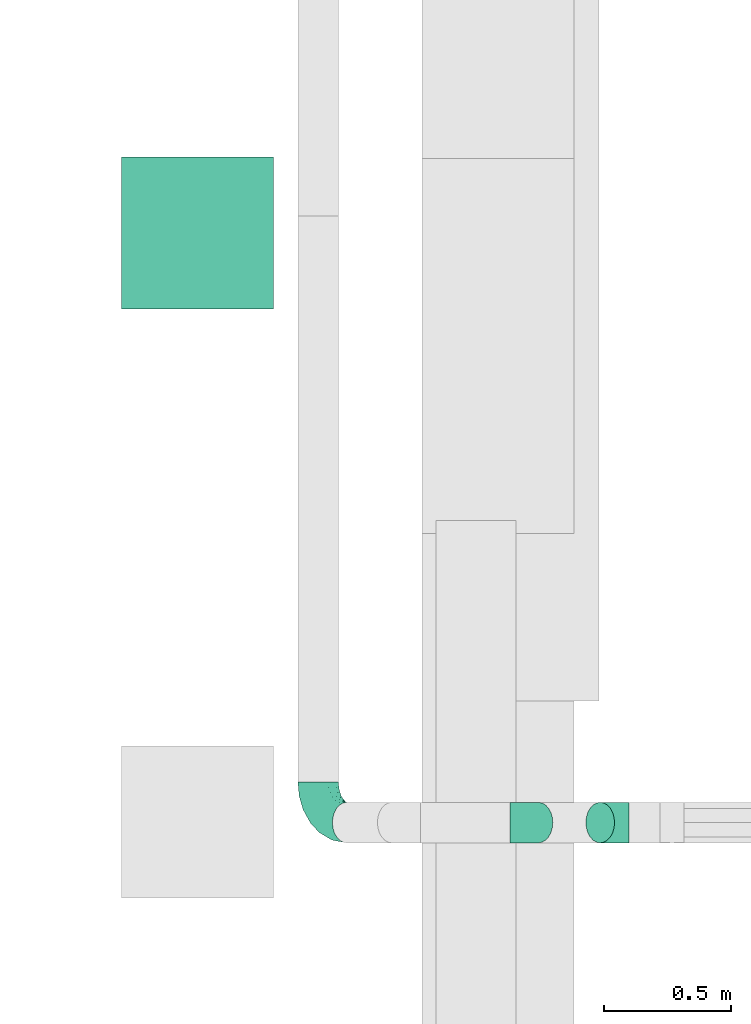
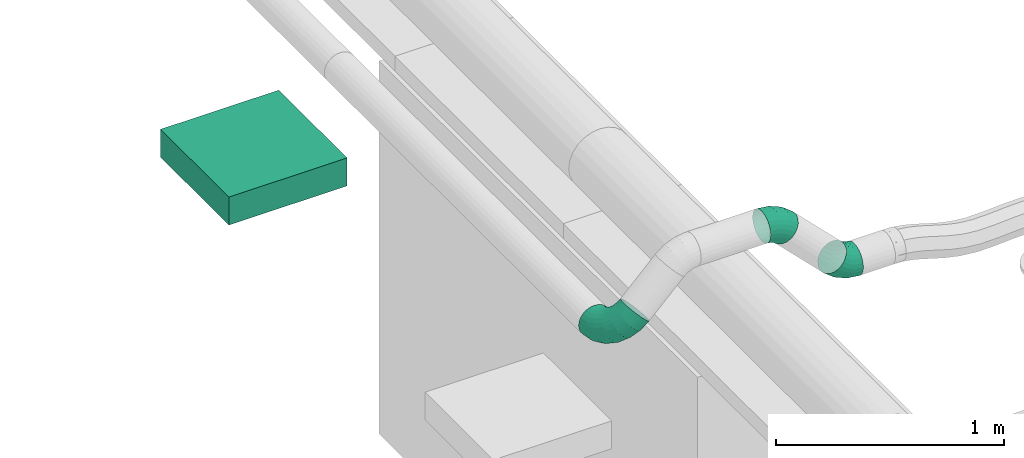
# One storey, part 24 of 119: 3 flow fittings, 1 distribution element.
"""IFC2X3 building model written with IfcOpenShell, lengths in metres."""

from ifc_helpers import new_model, si_unit, direction, frame, frame_2d, origin, place, context, subcontext, project, spatial, rectangle, extrude, open_shell, surface_model, source, transform, mapped, element, save


model = new_model("IFC2X3")

# Units and contexts
model_context = context("Model", 3, precision=1e-05, world=origin(), true_north=direction((-0.4480736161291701, 0.8939966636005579)))
body_context = subcontext(model_context, "Body", "Model", "MODEL_VIEW")
ifc_project = project(units=[si_unit("LENGTHUNIT", "METRE"), si_unit("AREAUNIT", "SQUARE_METRE"), si_unit("VOLUMEUNIT", "CUBIC_METRE"), si_unit("PLANEANGLEUNIT", "RADIAN"), si_unit("THERMODYNAMICTEMPERATUREUNIT", "KELVIN"), si_unit("MASSUNIT", "GRAM", prefix="KILO"), si_unit("TIMEUNIT", "SECOND")], contexts=[model_context])

# Site, building, storey
site_placement = place(None, origin())
site = spatial("IfcSite", under=ifc_project, at=site_placement, Name="Site 1", CompositionType="ELEMENT")
building_placement = place(site_placement, origin())
building = spatial("IfcBuilding", under=site, at=building_placement, Name="Undefined", CompositionType="ELEMENT")
storey_placement = place(building_placement, frame((0.0, 0.0, 5.4)))
storey = spatial("IfcBuildingStorey", under=building, at=storey_placement, Name="R+1", CompositionType="ELEMENT", Elevation=5.4)

# Flow fittings
shared_shape_1 = source(origin(), body_context, "Body", "SurfaceModel", [
    surface_model("IfcFaceBasedSurfaceModel", [(0.06265257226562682, -8.8817842e-16, 0.0), (0.062296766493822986, 0.02088115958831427, -7.105427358e-15), (0.0003558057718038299, 0.020881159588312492, 7.105427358e-15), (0.0, 0.0, 0.0), (-0.059474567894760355, 0.022956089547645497, -0.015896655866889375), (-0.06051773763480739, 0.002098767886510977, -0.01607928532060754), (-0.11311701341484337, 0.02696454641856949, -0.04660663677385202), (-0.11477645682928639, 0.006153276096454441, -0.04714207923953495), (-0.15691588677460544, 0.0326333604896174, -0.09003710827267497), (-0.15907851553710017, 0.01188721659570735, -0.09107150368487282), (-0.18788636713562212, 0.03957621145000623, -0.14322835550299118), (-0.1904048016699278, 0.01890983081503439, -0.14487384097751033), (-0.2039178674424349, 0.04731995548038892, -0.20255548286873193), (-0.20662048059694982, 0.026742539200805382, -0.20488255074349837), (0.061253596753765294, 0.04103889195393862, -0.0053597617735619), (0.0013989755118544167, 0.04103889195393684, -0.005359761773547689), (-0.05641614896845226, 0.04304393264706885, -0.02072097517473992), (-0.10825177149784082, 0.04691737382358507, -0.050396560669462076), (-0.15057538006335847, 0.05239524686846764, -0.09236417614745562), (-0.18050269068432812, 0.05910424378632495, -0.14376379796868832), (-0.19599420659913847, 0.06658715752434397, -0.20109262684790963), (0.05959415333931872, 0.05909948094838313, -0.01571402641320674), (0.003058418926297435, 0.05909948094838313, -0.01571402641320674), (-0.05155090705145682, 0.06099334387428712, -0.030223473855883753), (-0.10051228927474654, 0.06465200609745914, -0.058253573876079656), (-0.1404890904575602, 0.0698261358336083, -0.09789412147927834), (-0.16875695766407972, 0.0761631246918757, -0.14644367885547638), (-0.18338948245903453, 0.08323111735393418, -0.2005936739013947), (0.057431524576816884, 0.07383212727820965, -0.030357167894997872), (0.005221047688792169, 0.07383212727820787, -0.03035716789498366), (-0.0452104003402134, 0.07558110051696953, -0.04375657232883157), (-0.09042599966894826, 0.07895985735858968, -0.06964223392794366), (-0.12734438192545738, 0.08373814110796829, -0.10625008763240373), (-0.15344962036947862, 0.08959031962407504, -0.15108536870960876), (-0.16696268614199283, 0.0961175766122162, -0.20109262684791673), (0.054913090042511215, 0.0842328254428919, -0.048291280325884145), (0.007739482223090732, 0.08423282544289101, -0.04829128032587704), (-0.037826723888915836, 0.08581307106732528, -0.06039801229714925), (-0.07868026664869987, 0.08886587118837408, -0.08378642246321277), (-0.11203704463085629, 0.09318318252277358, -0.11686262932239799), (-0.13562384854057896, 0.09847078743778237, -0.1573725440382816), (-0.14783327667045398, 0.10436834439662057, -0.20255548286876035), (0.05221047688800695, 0.0895927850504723, -0.06829418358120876), (0.010442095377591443, 0.08959278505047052, -0.06829418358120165), (-0.029903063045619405, 0.09099196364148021, -0.07901370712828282), (-0.06607554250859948, 0.09369496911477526, -0.0997222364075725), (-0.0956102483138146, 0.0975175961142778, -0.12900851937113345), (-0.11649443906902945, 0.10219933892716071, -0.16487674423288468), (-0.12730489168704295, 0.1074211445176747, -0.2048825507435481), (0.04950786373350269, 0.08954673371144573, -0.08900271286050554), (0.013144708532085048, 0.08954673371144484, -0.08900271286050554), (-0.02197940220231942, 0.09076484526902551, -0.09833502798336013), (-0.05347081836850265, 0.09311805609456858, -0.11636367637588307), (-0.0791834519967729, 0.09644599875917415, -0.14186003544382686), (-0.09736502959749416, 0.10052187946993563, -0.17308657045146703), (-0.10677650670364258, 0.1050679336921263, -0.20791524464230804), (0.04698942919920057, 0.08409780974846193, -0.10900561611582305), (0.015663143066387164, 0.08409780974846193, -0.10900561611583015), (-0.014595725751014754, 0.08514719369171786, -0.11704525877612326), (-0.0417250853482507, 0.0871744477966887, -0.13257665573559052), (-0.06387611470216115, 0.09004141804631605, -0.15454136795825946), (-0.07953925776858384, 0.09355272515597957, -0.1814425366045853), (-0.08764709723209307, 0.09746907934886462, -0.21144689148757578), (0.04482680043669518, 0.0736173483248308, -0.12693972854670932), (0.017825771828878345, 0.0736173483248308, -0.12693972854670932), (-0.008255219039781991, 0.07452184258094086, -0.13386932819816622), (-0.03163879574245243, 0.0762691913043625, -0.14725628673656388), (-0.050731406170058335, 0.07874031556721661, -0.1661883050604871), (-0.06423192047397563, 0.08176681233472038, -0.18937519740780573), (-0.07122030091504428, 0.08514243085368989, -0.21523681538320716), (0.04316735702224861, 0.058819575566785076, -0.14158287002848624), (0.019485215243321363, 0.058819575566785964, -0.14158287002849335), (-0.0033899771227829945, 0.05961289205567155, -0.14766070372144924), (-0.02389931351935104, 0.06114546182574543, -0.15940217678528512), (-0.04064511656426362, 0.06331284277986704, -0.17600712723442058), (-0.052486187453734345, 0.06596733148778, -0.19634395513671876), (-0.05861557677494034, 0.06892802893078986, -0.2190267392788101), (0.04212418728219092, 0.040712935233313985, -0.15193713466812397), (0.020528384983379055, 0.040712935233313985, -0.15193713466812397), (-0.0003315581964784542, 0.041436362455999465, -0.15747952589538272), (-0.019034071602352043, 0.04283391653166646, -0.16818660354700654), (-0.03430460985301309, 0.04481035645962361, -0.1833286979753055), (-0.04510251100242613, 0.047230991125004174, -0.20187390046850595), (-0.05069191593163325, 0.04993085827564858, -0.22255838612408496), (0.04176838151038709, 0.02053136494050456, -0.15729689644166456), (0.020884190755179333, 0.02053136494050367, -0.15729689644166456), (0.0007116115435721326, 0.021230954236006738, -0.16265665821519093), (-0.017374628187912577, 0.022582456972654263, -0.17301092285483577), (-0.03214198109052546, 0.024493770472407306, -0.1876540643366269), (-0.042584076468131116, 0.026834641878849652, -0.20558817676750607), (-0.04798930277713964, 0.02944554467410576, -0.22559108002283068), (0.04212418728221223, -0.000349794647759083, -0.15729689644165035), (0.020528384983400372, -0.000349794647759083, -0.15729689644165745), (-0.0003315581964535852, 0.00037363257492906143, -0.1628392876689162), (-0.019034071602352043, 0.0017711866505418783, -0.17354636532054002), (-0.03430460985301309, 0.0037476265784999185, -0.18868845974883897), (-0.04510251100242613, 0.00616826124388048, -0.20723366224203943), (-0.05069191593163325, 0.008868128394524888, -0.22791814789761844), (0.04316735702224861, -0.020507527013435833, -0.15193713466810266), (0.019485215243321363, -0.020507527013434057, -0.15193713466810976), (-0.0033899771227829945, -0.019714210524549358, -0.15801496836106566), (-0.02389931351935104, -0.01818164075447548, -0.16975644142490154), (-0.04064511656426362, -0.01601425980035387, -0.186361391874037), (-0.052486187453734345, -0.013359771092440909, -0.20669821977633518), (-0.05861557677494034, -0.010399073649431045, -0.22938100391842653), (0.04482680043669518, -0.03856811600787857, -0.1415828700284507), (0.017825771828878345, -0.03856811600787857, -0.1415828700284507), (-0.008255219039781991, -0.03766362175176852, -0.1485124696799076), (-0.03163879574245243, -0.03591627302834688, -0.16189942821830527), (-0.050731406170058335, -0.03344514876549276, -0.1808314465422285), (-0.06423192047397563, -0.030418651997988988, -0.20401833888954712), (-0.07122030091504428, -0.027043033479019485, -0.22987995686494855), (0.04698942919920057, -0.05330076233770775, -0.12693972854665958), (0.015663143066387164, -0.05330076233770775, -0.12693972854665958), (-0.014595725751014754, -0.05225137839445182, -0.1349793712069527), (-0.0417250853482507, -0.05022412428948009, -0.15051076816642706), (-0.06387611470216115, -0.047357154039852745, -0.172475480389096), (-0.07953925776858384, -0.043845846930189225, -0.19937664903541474), (-0.08764709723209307, -0.03992949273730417, -0.2293810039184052), (0.04950786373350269, -0.06370146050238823, -0.10900561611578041), (0.013144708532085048, -0.06370146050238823, -0.10900561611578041), (-0.02197940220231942, -0.06248334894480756, -0.11833793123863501), (-0.05347081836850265, -0.06013013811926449, -0.13636657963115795), (-0.0791834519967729, -0.05680219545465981, -0.16186293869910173), (-0.09736502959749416, -0.05272631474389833, -0.1930894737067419), (-0.10677650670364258, -0.04818026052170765, -0.2279181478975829), (0.05221047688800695, -0.06906142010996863, -0.08900271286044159), (0.010442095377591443, -0.06906142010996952, -0.08900271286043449), (-0.029903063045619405, -0.06766224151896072, -0.09972223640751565), (-0.06607554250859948, -0.06495923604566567, -0.12043076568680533), (-0.0956102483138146, -0.06113660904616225, -0.14971704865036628), (-0.11649443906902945, -0.05645486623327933, -0.1855852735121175), (-0.12730489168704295, -0.05123306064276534, -0.22559108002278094), (0.054913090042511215, -0.06901536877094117, -0.06829418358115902), (0.007739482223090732, -0.06901536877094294, -0.06829418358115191), (-0.037826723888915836, -0.06743512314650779, -0.08040091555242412), (-0.07868026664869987, -0.06438232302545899, -0.10378932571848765), (-0.11203704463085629, -0.06006501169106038, -0.13686553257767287), (-0.13562384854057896, -0.0547774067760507, -0.17737544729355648), (-0.14783327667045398, -0.04887984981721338, -0.22255838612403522), (0.057431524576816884, -0.06356644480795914, -0.0482912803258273), (0.005221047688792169, -0.06356644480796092, -0.04829128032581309), (-0.0452104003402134, -0.061817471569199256, -0.0616906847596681), (-0.09042599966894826, -0.05843871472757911, -0.0875763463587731), (-0.12734438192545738, -0.05366043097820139, -0.12418420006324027), (-0.15344962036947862, -0.04780825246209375, -0.1690194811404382), (-0.16696268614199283, -0.041280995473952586, -0.21902673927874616), (0.05959415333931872, -0.05308598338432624, -0.030357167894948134), (0.003058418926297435, -0.05308598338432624, -0.030357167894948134), (-0.05155090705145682, -0.05119212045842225, -0.04486661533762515), (-0.10051228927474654, -0.04753345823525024, -0.07289671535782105), (-0.1404890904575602, -0.04235932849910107, -0.11253726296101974), (-0.16875695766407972, -0.03602233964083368, -0.16108682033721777), (-0.18338948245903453, -0.02895434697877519, -0.2152368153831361), (0.061253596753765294, -0.03828821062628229, -0.015714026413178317), (0.0013989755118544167, -0.03828821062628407, -0.015714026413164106), (-0.05641614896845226, -0.03628316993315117, -0.031075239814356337), (-0.10825177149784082, -0.03240972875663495, -0.06075082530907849), (-0.15057538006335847, -0.026931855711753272, -0.10271844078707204), (-0.18050269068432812, -0.02022285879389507, -0.15411806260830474), (-0.19599420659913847, -0.012739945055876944, -0.21144689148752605), (0.062296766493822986, -0.020181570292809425, -0.005359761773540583), (0.0003558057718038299, -0.020181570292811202, -0.0053597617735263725), (-0.059474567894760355, -0.018106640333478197, -0.021256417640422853), (-0.11311701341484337, -0.014098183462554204, -0.051966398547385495), (-0.15691588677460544, -0.00842936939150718, -0.09539687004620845), (-0.18788636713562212, -0.0014865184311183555, -0.14858811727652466), (-0.2039178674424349, 0.006257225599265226, -0.2079152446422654)], [open_shell([[[0, 1, 2, 3]], [[3, 2, 4, 5]], [[5, 4, 6, 7]], [[7, 6, 8, 9]], [[9, 8, 10, 11]], [[11, 10, 12, 13]], [[1, 14, 15, 2]], [[2, 15, 16, 4]], [[4, 16, 17, 6]], [[6, 17, 18, 8]], [[8, 18, 19, 10]], [[10, 19, 20, 12]], [[14, 21, 22, 15]], [[15, 22, 23, 16]], [[16, 23, 24, 17]], [[17, 24, 25, 18]], [[18, 25, 26, 19]], [[19, 26, 27, 20]], [[21, 28, 29, 22]], [[22, 29, 30, 23]], [[23, 30, 31, 24]], [[24, 31, 32, 25]], [[25, 32, 33, 26]], [[26, 33, 34, 27]], [[28, 35, 36, 29]], [[29, 36, 37, 30]], [[30, 37, 38, 31]], [[31, 38, 39, 32]], [[32, 39, 40, 33]], [[33, 40, 41, 34]], [[35, 42, 43, 36]], [[36, 43, 44, 37]], [[37, 44, 45, 38]], [[38, 45, 46, 39]], [[39, 46, 47, 40]], [[40, 47, 48, 41]], [[42, 49, 50, 43]], [[43, 50, 51, 44]], [[44, 51, 52, 45]], [[45, 52, 53, 46]], [[46, 53, 54, 47]], [[47, 54, 55, 48]], [[49, 56, 57, 50]], [[50, 57, 58, 51]], [[51, 58, 59, 52]], [[52, 59, 60, 53]], [[53, 60, 61, 54]], [[54, 61, 62, 55]], [[56, 63, 64, 57]], [[57, 64, 65, 58]], [[58, 65, 66, 59]], [[59, 66, 67, 60]], [[60, 67, 68, 61]], [[61, 68, 69, 62]], [[63, 70, 71, 64]], [[64, 71, 72, 65]], [[65, 72, 73, 66]], [[66, 73, 74, 67]], [[67, 74, 75, 68]], [[68, 75, 76, 69]], [[70, 77, 78, 71]], [[71, 78, 79, 72]], [[72, 79, 80, 73]], [[73, 80, 81, 74]], [[74, 81, 82, 75]], [[75, 82, 83, 76]], [[77, 84, 85, 78]], [[78, 85, 86, 79]], [[79, 86, 87, 80]], [[80, 87, 88, 81]], [[81, 88, 89, 82]], [[82, 89, 90, 83]], [[84, 91, 92, 85]], [[85, 92, 93, 86]], [[86, 93, 94, 87]], [[87, 94, 95, 88]], [[88, 95, 96, 89]], [[89, 96, 97, 90]], [[91, 98, 99, 92]], [[92, 99, 100, 93]], [[93, 100, 101, 94]], [[94, 101, 102, 95]], [[95, 102, 103, 96]], [[96, 103, 104, 97]], [[98, 105, 106, 99]], [[99, 106, 107, 100]], [[100, 107, 108, 101]], [[101, 108, 109, 102]], [[102, 109, 110, 103]], [[103, 110, 111, 104]], [[105, 112, 113, 106]], [[106, 113, 114, 107]], [[107, 114, 115, 108]], [[108, 115, 116, 109]], [[109, 116, 117, 110]], [[110, 117, 118, 111]], [[112, 119, 120, 113]], [[113, 120, 121, 114]], [[114, 121, 122, 115]], [[115, 122, 123, 116]], [[116, 123, 124, 117]], [[117, 124, 125, 118]], [[119, 126, 127, 120]], [[120, 127, 128, 121]], [[121, 128, 129, 122]], [[122, 129, 130, 123]], [[123, 130, 131, 124]], [[124, 131, 132, 125]], [[126, 133, 134, 127]], [[127, 134, 135, 128]], [[128, 135, 136, 129]], [[129, 136, 137, 130]], [[130, 137, 138, 131]], [[131, 138, 139, 132]], [[133, 140, 141, 134]], [[134, 141, 142, 135]], [[135, 142, 143, 136]], [[136, 143, 144, 137]], [[137, 144, 145, 138]], [[138, 145, 146, 139]], [[140, 147, 148, 141]], [[141, 148, 149, 142]], [[142, 149, 150, 143]], [[143, 150, 151, 144]], [[144, 151, 152, 145]], [[145, 152, 153, 146]], [[147, 154, 155, 148]], [[148, 155, 156, 149]], [[149, 156, 157, 150]], [[150, 157, 158, 151]], [[151, 158, 159, 152]], [[152, 159, 160, 153]], [[154, 161, 162, 155]], [[155, 162, 163, 156]], [[156, 163, 164, 157]], [[157, 164, 165, 158]], [[158, 165, 166, 159]], [[159, 166, 167, 160]], [[161, 0, 3, 162]], [[162, 3, 5, 163]], [[163, 5, 7, 164]], [[164, 7, 9, 165]], [[165, 9, 11, 166]], [[166, 11, 13, 167]]])]),
])
flow_fitting_1_placement = place(storey_placement, origin())
element("IfcFlowFitting", 1, at=flow_fitting_1_placement, inside=storey, Name="Coude", ObjectType="Coude", context=body_context, shape_type="MappedRepresentation", body=[
    mapped(shared_shape_1, transform((45.85083165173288, 10.483516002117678, 2.699214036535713), x_axis=(-0.09229595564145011, 0.9914448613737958, -0.0922959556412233), y_axis=(0.791895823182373, 0.016893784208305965, -0.6104224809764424), z_axis=(-0.6036410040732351, -0.12942830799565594, -0.7866802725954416))),
])
shared_shape_2 = source(origin(), body_context, "Body", "SurfaceModel", [
    surface_model("IfcFaceBasedSurfaceModel", [(0.06265257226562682, -8.8817842e-16, 0.0), (0.062296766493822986, 0.02088115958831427, -7.105427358e-15), (0.0003558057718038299, 0.020881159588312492, 7.105427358e-15), (0.0, 0.0, 0.0), (-0.059474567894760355, 0.022956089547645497, -0.015896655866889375), (-0.06051773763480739, 0.002098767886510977, -0.01607928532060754), (-0.11311701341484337, 0.02696454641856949, -0.04660663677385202), (-0.11477645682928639, 0.006153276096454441, -0.04714207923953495), (0.061253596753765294, 0.04103889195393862, -0.0053597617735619), (0.0013989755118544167, 0.04103889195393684, -0.005359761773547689), (-0.05641614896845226, 0.04304393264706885, -0.02072097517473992), (-0.10825177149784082, 0.04691737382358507, -0.050396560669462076), (0.05959415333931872, 0.05909948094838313, -0.01571402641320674), (0.003058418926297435, 0.05909948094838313, -0.01571402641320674), (-0.05155090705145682, 0.06099334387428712, -0.030223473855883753), (-0.10051228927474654, 0.06465200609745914, -0.058253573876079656), (0.057431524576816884, 0.07383212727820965, -0.030357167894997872), (0.005221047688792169, 0.07383212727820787, -0.03035716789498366), (-0.0452104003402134, 0.07558110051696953, -0.04375657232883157), (-0.09042599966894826, 0.07895985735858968, -0.06964223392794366), (0.054913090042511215, 0.0842328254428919, -0.048291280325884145), (0.007739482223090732, 0.08423282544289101, -0.04829128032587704), (-0.037826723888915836, 0.08581307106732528, -0.06039801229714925), (-0.07868026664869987, 0.08886587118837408, -0.08378642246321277), (0.05221047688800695, 0.0895927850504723, -0.06829418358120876), (0.010442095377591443, 0.08959278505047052, -0.06829418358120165), (-0.029903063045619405, 0.09099196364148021, -0.07901370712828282), (-0.06607554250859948, 0.09369496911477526, -0.0997222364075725), (0.04950786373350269, 0.08954673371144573, -0.08900271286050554), (0.013144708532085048, 0.08954673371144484, -0.08900271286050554), (-0.02197940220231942, 0.09076484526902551, -0.09833502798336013), (-0.05347081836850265, 0.09311805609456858, -0.11636367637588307), (0.04698942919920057, 0.08409780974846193, -0.10900561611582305), (0.015663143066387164, 0.08409780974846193, -0.10900561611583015), (-0.014595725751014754, 0.08514719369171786, -0.11704525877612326), (-0.0417250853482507, 0.0871744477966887, -0.13257665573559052), (0.04482680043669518, 0.0736173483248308, -0.12693972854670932), (0.017825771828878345, 0.0736173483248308, -0.12693972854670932), (-0.008255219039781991, 0.07452184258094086, -0.13386932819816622), (-0.03163879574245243, 0.0762691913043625, -0.14725628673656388), (0.04316735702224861, 0.058819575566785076, -0.14158287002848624), (0.019485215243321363, 0.058819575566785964, -0.14158287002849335), (-0.0033899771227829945, 0.05961289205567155, -0.14766070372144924), (-0.02389931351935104, 0.06114546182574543, -0.15940217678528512), (0.04212418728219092, 0.040712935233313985, -0.15193713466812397), (0.020528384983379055, 0.040712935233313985, -0.15193713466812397), (-0.0003315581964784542, 0.041436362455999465, -0.15747952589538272), (-0.019034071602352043, 0.04283391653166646, -0.16818660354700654), (0.04176838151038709, 0.02053136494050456, -0.15729689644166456), (0.020884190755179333, 0.02053136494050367, -0.15729689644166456), (0.0007116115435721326, 0.021230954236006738, -0.16265665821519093), (-0.017374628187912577, 0.022582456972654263, -0.17301092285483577), (0.04212418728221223, -0.000349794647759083, -0.15729689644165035), (0.020528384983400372, -0.000349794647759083, -0.15729689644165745), (-0.0003315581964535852, 0.00037363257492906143, -0.1628392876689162), (-0.019034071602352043, 0.0017711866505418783, -0.17354636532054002), (0.04316735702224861, -0.020507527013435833, -0.15193713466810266), (0.019485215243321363, -0.020507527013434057, -0.15193713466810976), (-0.0033899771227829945, -0.019714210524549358, -0.15801496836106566), (-0.02389931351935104, -0.01818164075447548, -0.16975644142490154), (0.04482680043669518, -0.03856811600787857, -0.1415828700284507), (0.017825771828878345, -0.03856811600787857, -0.1415828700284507), (-0.008255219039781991, -0.03766362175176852, -0.1485124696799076), (-0.03163879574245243, -0.03591627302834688, -0.16189942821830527), (0.04698942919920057, -0.05330076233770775, -0.12693972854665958), (0.015663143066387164, -0.05330076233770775, -0.12693972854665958), (-0.014595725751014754, -0.05225137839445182, -0.1349793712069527), (-0.0417250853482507, -0.05022412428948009, -0.15051076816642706), (0.04950786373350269, -0.06370146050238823, -0.10900561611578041), (0.013144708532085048, -0.06370146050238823, -0.10900561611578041), (-0.02197940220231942, -0.06248334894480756, -0.11833793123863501), (-0.05347081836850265, -0.06013013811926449, -0.13636657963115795), (0.05221047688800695, -0.06906142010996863, -0.08900271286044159), (0.010442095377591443, -0.06906142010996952, -0.08900271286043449), (-0.029903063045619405, -0.06766224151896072, -0.09972223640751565), (-0.06607554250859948, -0.06495923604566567, -0.12043076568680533), (0.054913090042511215, -0.06901536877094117, -0.06829418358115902), (0.007739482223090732, -0.06901536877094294, -0.06829418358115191), (-0.037826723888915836, -0.06743512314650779, -0.08040091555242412), (-0.07868026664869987, -0.06438232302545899, -0.10378932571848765), (0.057431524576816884, -0.06356644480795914, -0.0482912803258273), (0.005221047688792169, -0.06356644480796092, -0.04829128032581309), (-0.0452104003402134, -0.061817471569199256, -0.0616906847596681), (-0.09042599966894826, -0.05843871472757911, -0.0875763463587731), (0.05959415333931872, -0.05308598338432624, -0.030357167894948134), (0.003058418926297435, -0.05308598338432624, -0.030357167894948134), (-0.05155090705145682, -0.05119212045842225, -0.04486661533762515), (-0.10051228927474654, -0.04753345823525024, -0.07289671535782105), (0.061253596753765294, -0.03828821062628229, -0.015714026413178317), (0.0013989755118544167, -0.03828821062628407, -0.015714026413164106), (-0.05641614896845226, -0.03628316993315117, -0.031075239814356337), (-0.10825177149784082, -0.03240972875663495, -0.06075082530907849), (0.062296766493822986, -0.020181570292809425, -0.005359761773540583), (0.0003558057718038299, -0.020181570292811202, -0.0053597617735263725), (-0.059474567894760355, -0.018106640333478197, -0.021256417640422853), (-0.11311701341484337, -0.014098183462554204, -0.051966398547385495)], [open_shell([[[0, 1, 2, 3]], [[3, 2, 4, 5]], [[5, 4, 6, 7]], [[1, 8, 9, 2]], [[2, 9, 10, 4]], [[4, 10, 11, 6]], [[8, 12, 13, 9]], [[9, 13, 14, 10]], [[10, 14, 15, 11]], [[12, 16, 17, 13]], [[13, 17, 18, 14]], [[14, 18, 19, 15]], [[16, 20, 21, 17]], [[17, 21, 22, 18]], [[18, 22, 23, 19]], [[20, 24, 25, 21]], [[21, 25, 26, 22]], [[22, 26, 27, 23]], [[24, 28, 29, 25]], [[25, 29, 30, 26]], [[26, 30, 31, 27]], [[28, 32, 33, 29]], [[29, 33, 34, 30]], [[30, 34, 35, 31]], [[32, 36, 37, 33]], [[33, 37, 38, 34]], [[34, 38, 39, 35]], [[36, 40, 41, 37]], [[37, 41, 42, 38]], [[38, 42, 43, 39]], [[40, 44, 45, 41]], [[41, 45, 46, 42]], [[42, 46, 47, 43]], [[44, 48, 49, 45]], [[45, 49, 50, 46]], [[46, 50, 51, 47]], [[48, 52, 53, 49]], [[49, 53, 54, 50]], [[50, 54, 55, 51]], [[52, 56, 57, 53]], [[53, 57, 58, 54]], [[54, 58, 59, 55]], [[56, 60, 61, 57]], [[57, 61, 62, 58]], [[58, 62, 63, 59]], [[60, 64, 65, 61]], [[61, 65, 66, 62]], [[62, 66, 67, 63]], [[64, 68, 69, 65]], [[65, 69, 70, 66]], [[66, 70, 71, 67]], [[68, 72, 73, 69]], [[69, 73, 74, 70]], [[70, 74, 75, 71]], [[72, 76, 77, 73]], [[73, 77, 78, 74]], [[74, 78, 79, 75]], [[76, 80, 81, 77]], [[77, 81, 82, 78]], [[78, 82, 83, 79]], [[80, 84, 85, 81]], [[81, 85, 86, 82]], [[82, 86, 87, 83]], [[84, 88, 89, 85]], [[85, 89, 90, 86]], [[86, 90, 91, 87]], [[88, 92, 93, 89]], [[89, 93, 94, 90]], [[90, 94, 95, 91]], [[92, 0, 3, 93]], [[93, 3, 5, 94]], [[94, 5, 7, 95]]])]),
])
flow_fitting_2_placement = place(storey_placement, origin())
element("IfcFlowFitting", 2, at=flow_fitting_2_placement, inside=storey, Name="Coude", ObjectType="Coude", context=body_context, shape_type="MappedRepresentation", body=[
    mapped(shared_shape_2, transform((47.06618412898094, 10.385632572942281, 2.6781778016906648), x_axis=(0.9914448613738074, 0.0, -0.13052619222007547), y_axis=(0.016893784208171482, -0.9915887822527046, 0.12832103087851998), z_axis=(-0.12942830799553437, -0.12942830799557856, -0.9831056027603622))),
])
flow_fitting_3_placement = place(storey_placement, origin())
element("IfcFlowFitting", 3, at=flow_fitting_3_placement, inside=storey, Name="Coude", ObjectType="Coude", context=body_context, shape_type="MappedRepresentation", body=[
    mapped(shared_shape_2, transform((46.7203689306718, 10.385632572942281, 3.1593221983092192), x_axis=(-0.9914448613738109, 0.0, 0.1305261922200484), y_axis=(-0.016893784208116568, -0.9915887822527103, -0.12832103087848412), z_axis=(0.12942830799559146, -0.1294283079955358, 0.9831056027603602))),
])

# Distribution element
distribution_element_placement = place(storey_placement, origin())
element("IfcDistributionElement", 4, at=distribution_element_placement, inside=storey, Name="Decken-Rechteckleuchte mit Rahmen AP", ObjectType="Decken-Rechteckleuchte mit Rahmen AP", context=body_context, shape_type="SweptSolid", body=[
    extrude(rectangle(XDim=0.6000000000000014, YDim=0.6000000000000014, at=frame_2d((3.552713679e-15, 0.0), x_axis=(0.0, 1.0))), frame((45.425337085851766, 12.712499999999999, 2.5500000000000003), z_axis=(0.0, 0.0, -1.0), x_axis=(1.0, 0.0, 0.0)), (0.0, 0.0, 1.0), 0.15),
])

save(model, "model.ifc")
